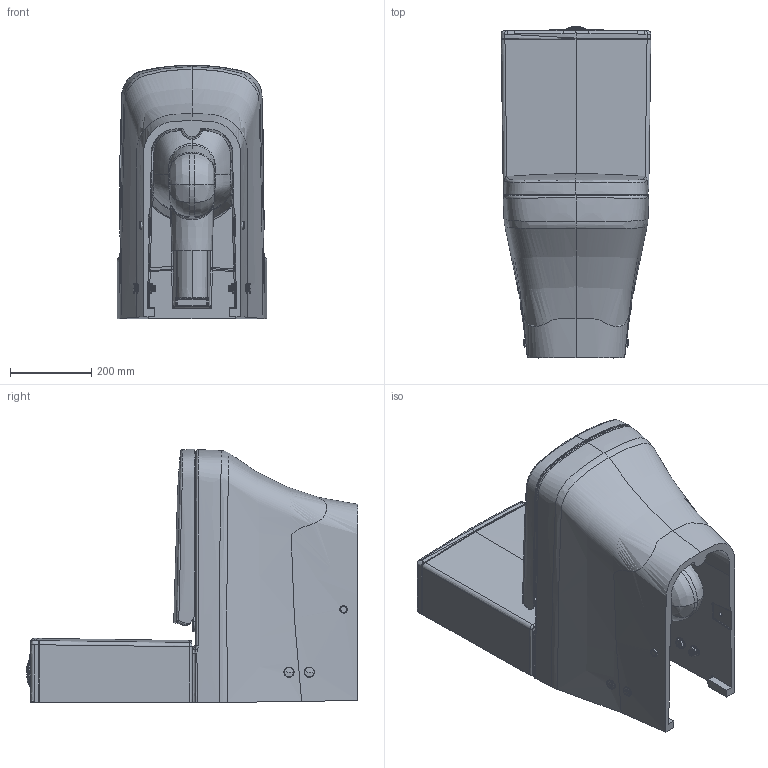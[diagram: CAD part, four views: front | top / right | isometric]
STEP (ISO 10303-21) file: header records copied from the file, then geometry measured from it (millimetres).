
FILE_DESCRIPTION (( 'STEP AP203' ), '1' );
FILE_NAME ('so361 yenisi için.STEP', '2022-05-24T11:55:22', ( '' ), ( '' ), 'SwSTEP 2.0', 'SolidWorks 2021', '' );
FILE_SCHEMA (( 'CONFIG_CONTROL_DESIGN' ));
Products named in the file (1): so361 yenisi i蓾n
Bounding box: 369.72 x 818.87 x 626.41 mm (x, y, z)
Volume: 34509069.2 mm3; surface area: 3372341.3 mm2
Topology: 37 solids, 46 shells, 2555 faces, 6376 edges, 3956 vertices
Faces by surface type: bspline 989, cylinder 812, plane 493, cone 110, torus 94, sphere 57
Entity records: 329361 total; most frequent: CARTESIAN_POINT 277874, ORIENTED_EDGE 12568, DIRECTION 7856, EDGE_CURVE 6284, VERTEX_POINT 3955, AXIS2_PLACEMENT_3D 3142, B_SPLINE_CURVE_WITH_KNOTS 2926, EDGE_LOOP 2727
